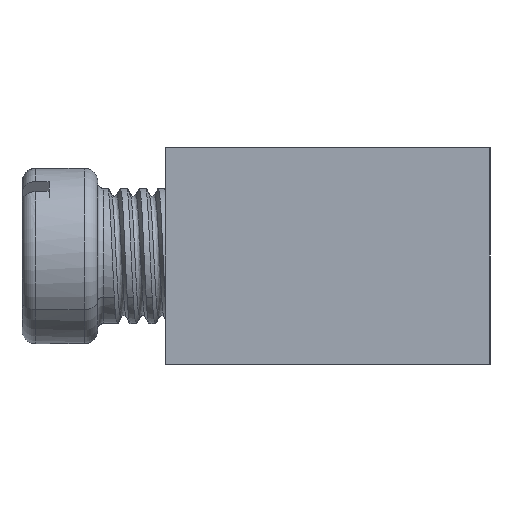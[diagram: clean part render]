
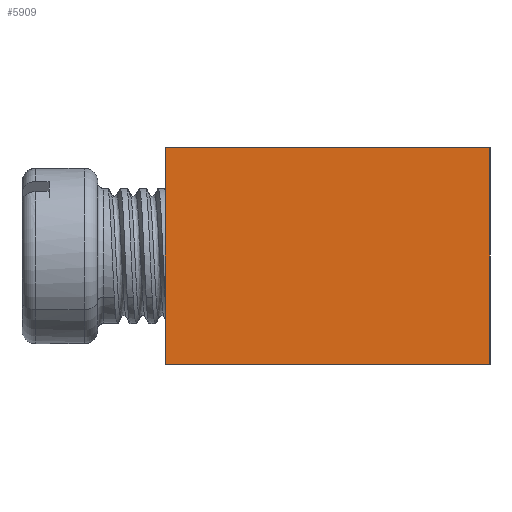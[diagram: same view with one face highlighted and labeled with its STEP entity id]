
A CAD part, left-side view. The second image highlights one B-rep face of the part: STEP entity #5909.
In plain terms, the highlighted planar face has unit normal (-1, 0, 0).
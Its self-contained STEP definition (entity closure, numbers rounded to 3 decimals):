
#84 = FACE_OUTER_BOUND ( 'NONE', #5902, .T. ) ;
#94 = CARTESIAN_POINT ( 'NONE',  ( 0., 0., -8. ) ) ;
#685 = CARTESIAN_POINT ( 'NONE',  ( 0., 0., -8. ) ) ;
#762 = DIRECTION ( 'NONE',  ( 0., -1., 0. ) ) ;
#797 = LINE ( 'NONE', #685, #2377 ) ;
#1014 = ORIENTED_EDGE ( 'NONE', *, *, #6662, .T. ) ;
#1044 = CARTESIAN_POINT ( 'NONE',  ( 0., 12., -8. ) ) ;
#1585 = VECTOR ( 'NONE', #7044, 1000. ) ;
#2261 = CARTESIAN_POINT ( 'NONE',  ( 0., 0., -8. ) ) ;
#2340 = DIRECTION ( 'NONE',  ( 0., -1., 0. ) ) ;
#2377 = VECTOR ( 'NONE', #6044, 1000. ) ;
#2399 = CARTESIAN_POINT ( 'NONE',  ( 0., 0., -8. ) ) ;
#2809 = EDGE_CURVE ( 'NONE', #2932, #4204, #3387, .T. ) ;
#2932 = VERTEX_POINT ( 'NONE', #5929 ) ;
#3343 = LINE ( 'NONE', #6345, #8454 ) ;
#3387 = LINE ( 'NONE', #1044, #1585 ) ;
#3680 = VECTOR ( 'NONE', #762, 1000. ) ;
#3772 = DIRECTION ( 'NONE',  ( -1., 0., 0. ) ) ;
#4021 = ORIENTED_EDGE ( 'NONE', *, *, #7630, .F. ) ;
#4204 = VERTEX_POINT ( 'NONE', #5871 ) ;
#4629 = ORIENTED_EDGE ( 'NONE', *, *, #7413, .T. ) ;
#5062 = PLANE ( 'NONE',  #8152 ) ;
#5729 = VERTEX_POINT ( 'NONE', #7608 ) ;
#5871 = CARTESIAN_POINT ( 'NONE',  ( 0., 12., 0. ) ) ;
#5902 = EDGE_LOOP ( 'NONE', ( #4021, #7189, #1014, #4629 ) ) ;
#5909 = ADVANCED_FACE ( 'NONE', ( #84 ), #5062, .T. ) ;
#5929 = CARTESIAN_POINT ( 'NONE',  ( 0., 12., -8. ) ) ;
#6044 = DIRECTION ( 'NONE',  ( 0., 0., 1. ) ) ;
#6345 = CARTESIAN_POINT ( 'NONE',  ( 0., 0., 0. ) ) ;
#6662 = EDGE_CURVE ( 'NONE', #2932, #7002, #8569, .T. ) ;
#7002 = VERTEX_POINT ( 'NONE', #2261 ) ;
#7044 = DIRECTION ( 'NONE',  ( 0., 0., 1. ) ) ;
#7189 = ORIENTED_EDGE ( 'NONE', *, *, #2809, .F. ) ;
#7413 = EDGE_CURVE ( 'NONE', #7002, #5729, #797, .T. ) ;
#7608 = CARTESIAN_POINT ( 'NONE',  ( 0., 0., 0. ) ) ;
#7630 = EDGE_CURVE ( 'NONE', #4204, #5729, #3343, .T. ) ;
#8152 = AXIS2_PLACEMENT_3D ( 'NONE', #2399, #3772, #8431 ) ;
#8431 = DIRECTION ( 'NONE',  ( 0., 0., 1. ) ) ;
#8454 = VECTOR ( 'NONE', #2340, 1000. ) ;
#8569 = LINE ( 'NONE', #94, #3680 ) ;
